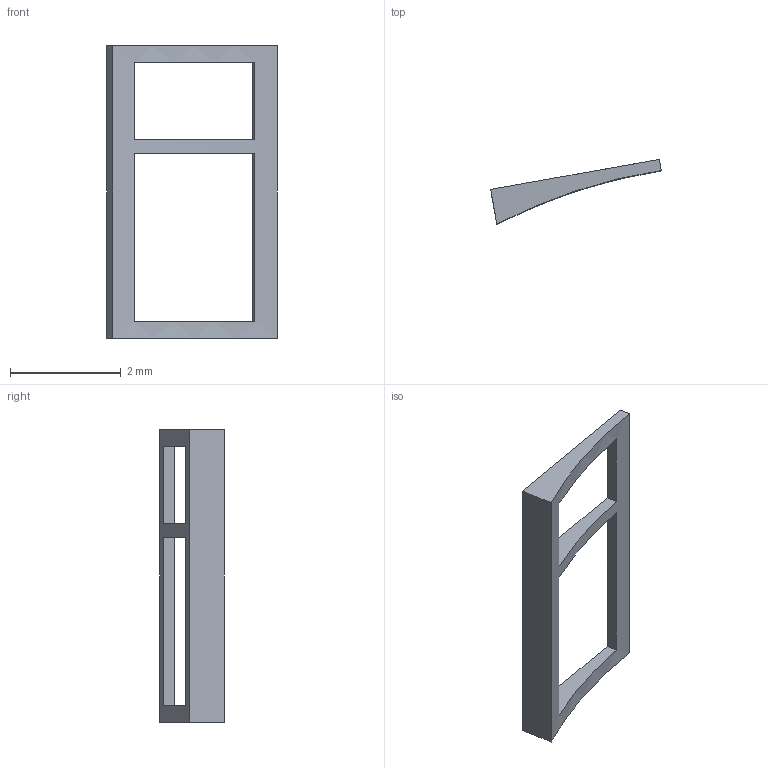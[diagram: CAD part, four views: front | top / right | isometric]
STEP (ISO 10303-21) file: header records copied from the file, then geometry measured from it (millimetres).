
FILE_DESCRIPTION(('FreeCAD Model'),'2;1');
FILE_NAME('Open CASCADE Shape Model','2026-10-23T21:15:57',('FreeCAD'),( 'FreeCAD'),'Open CASCADE STEP processor 7.8','FreeCAD','Unknown');
FILE_SCHEMA(('AUTOMOTIVE_DESIGN { 1 0 10303 214 1 1 1 1 }'));
Length unit declared in the file: millimetre
Products named in the file (1): Open CASCADE STEP translator 7.8 9
Bounding box: 3.09 x 1.17 x 5.3 mm (x, y, z)
Volume: 2.3 mm3; surface area: 25.4 mm2
Topology: 1 solids, 1 shells, 14 faces, 36 edges, 24 vertices
Faces by surface type: plane 13, cylinder 1
Entity records: 444 total; most frequent: CARTESIAN_POINT 75, DIRECTION 72, ORIENTED_EDGE 72, EDGE_CURVE 36, LINE 30, VECTOR 30, VERTEX_POINT 24, AXIS2_PLACEMENT_3D 21
